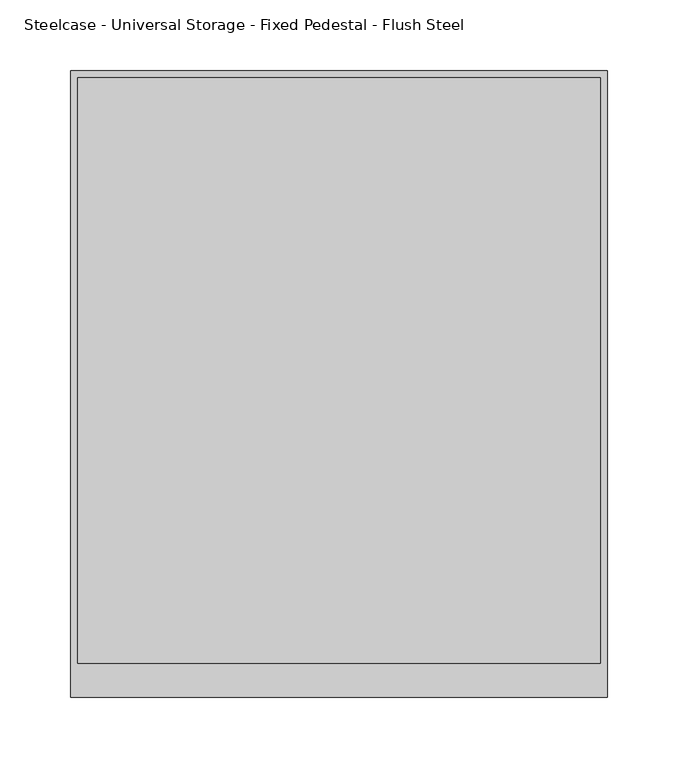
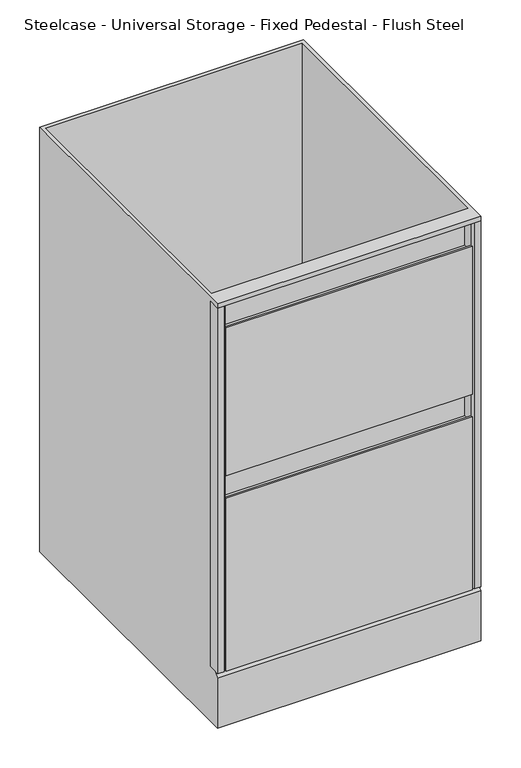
"""IFC4 building model written with IfcOpenShell, lengths in millimetres: furniture geometry, Steelcase - Universal Storage - Fixed Pedestal - Flush Steel : 2 File - 25 1/2H x 17 1/2D."""

from ifc_helpers import new_model, si_unit, frame, origin, place, context, project, spatial, polyline, outline, extrude, faceted_brep, source, transform, mapped, element, save


def steelcase_universal_storage_fixed_pedestal_flush_steel_35dadbd4(model_context):
    return source(origin(), model_context, "Body", "SolidModel", [
        extrude(outline(polyline([(368.3000121, 0.0), (12.7000004, 0.0), (12.7000004, 3.1750001), (368.3000121, 3.1750001), (368.3000121, 0.0)])), frame((0.0, 0.0, 381.0000363), z_axis=(0.0, 0.0, 1.0), x_axis=(1.0, 0.0, 0.0)), (0.0, 0.0, 1.0), 225.4249394),
        extrude(outline(polyline([(368.3000121, 3.1750001), (12.7000004, 3.1750001), (12.7000004, 19.0495469), (368.3000121, 19.0495469), (368.3000121, 3.1750001)])), frame((0.0, 0.0, 82.550003), z_axis=(0.0, 0.0, 1.0), x_axis=(1.0, 0.0, 0.0)), (0.0, 0.0, 1.0), 254.000003),
        extrude(outline(polyline([(368.3000121, 3.1750001), (12.7000004, 3.1750001), (12.7000004, 19.0495469), (368.3000121, 19.0495469), (368.3000121, 3.1750001)])), frame((0.0, 0.0, 381.0000363), z_axis=(0.0, 0.0, 1.0), x_axis=(1.0, 0.0, 0.0)), (0.0, 0.0, 1.0), 101.7269637),
        extrude(outline(polyline([(368.3000121, 3.1750001), (12.7000004, 3.1750001), (12.7000004, 19.0495469), (368.3000121, 19.0495469), (368.3000121, 3.1750001)])), frame((0.0, 0.0, 492.1250121), z_axis=(0.0, 0.0, 1.0), x_axis=(1.0, 0.0, 0.0)), (0.0, 0.0, 1.0), 104.7749637),
        extrude(outline(polyline([(368.3000121, 0.0), (12.7000004, 0.0), (12.7000004, 3.1750001), (368.3000121, 3.1750001), (368.3000121, 0.0)])), frame((0.0, 0.0, 82.550003), z_axis=(0.0, 0.0, 1.0), x_axis=(1.0, 0.0, 0.0)), (0.0, 0.0, 1.0), 263.5249849),
        faceted_brep([(381.0, 0.0, 641.3500242), (381.0, 19.0495469, 641.3500242), (381.0, 19.0495469, 82.550003), (381.0, 6.350003, 82.550003), (381.0, 0.0, 76.2), (381.0, 0.0, 0.0), (381.0, 444.5, 0.0), (381.0, 444.5, 647.7), (381.0, 0.0, 647.7), (0.0, 0.0, 641.3500242), (0.0, 0.0, 647.7), (0.0, 444.5, 647.7), (0.0, 444.5, 0.0), (0.0, 0.0, 0.0), (0.0, 0.0, 76.2), (0.0, 6.350003, 82.550003), (0.0, 19.0495469, 82.550003), (0.0, 19.0495469, 641.3500242), (5.08, 439.42, 647.7), (375.92, 439.42, 647.7), (375.92, 24.1295469, 647.7), (5.08, 24.1295469, 647.7), (375.92, 439.42, 82.550003), (5.08, 439.42, 82.550003), (5.08, 24.1295469, 82.550003), (375.92, 24.1295469, 82.550003)], [[[0, 1, 2, 3, 4, 5, 6, 7, 8]], [[9, 10, 11, 12, 13, 14, 15, 16, 17]], [[1, 0, 9, 17]], [[2, 1, 17, 16]], [[2, 16, 15, 3]], [[13, 5, 4, 14]], [[6, 5, 13, 12]], [[7, 6, 12, 11]], [[8, 7, 11, 10], [18, 19, 20, 21]], [[0, 8, 10, 9]], [[4, 3, 15, 14]], [[22, 23, 24, 25]], [[23, 22, 19, 18]], [[24, 23, 18, 21]], [[25, 24, 21, 20]], [[22, 25, 20, 19]]]),
        extrude(outline(polyline([(12.7000004, 19.0495469), (12.7000004, 3.1750001), (9.5250003, 0.0), (0.0, 0.0), (0.0, 19.0495469), (12.7000004, 19.0495469)])), frame((0.0, 0.0, 82.550003), z_axis=(0.0, 0.0, 1.0), x_axis=(1.0, 0.0, 0.0)), (0.0, 0.0, 1.0), 558.8000212),
        extrude(outline(polyline([(381.0000125, 19.0495469), (381.0000125, 0.0), (371.4750122, 0.0), (368.3000121, 3.1750001), (368.3000121, 19.0495469), (381.0000125, 19.0495469)])), frame((0.0, 0.0, 82.550003), z_axis=(0.0, 0.0, 1.0), x_axis=(1.0, 0.0, 0.0)), (0.0, 0.0, 1.0), 558.8000212),
    ])


if __name__ == "__main__":
    model = new_model("IFC4")
    model_context = context("Model", 3, world=origin())
    ifc_project = project(units=[si_unit("LENGTHUNIT", "METRE", prefix="MILLI")], contexts=[model_context])
    site = spatial("IfcSite", under=ifc_project)
    building = spatial("IfcBuilding", under=site)
    placement = place(None, origin())
    steelcase_universal_storage_fixed_pedestal_flush_steel_shape = steelcase_universal_storage_fixed_pedestal_flush_steel_35dadbd4(model_context)
    element("IfcFurniture", 1, ObjectType="Steelcase - Universal Storage - Fixed Pedestal - Flush Steel : 2 File - 25 1/2H x 17 1/2D", at=placement, inside=building, context=model_context, shape_type="MappedRepresentation", body=[
        mapped(steelcase_universal_storage_fixed_pedestal_flush_steel_shape, transform((0.0, 0.0, 0.0), x_axis=(1.0, 0.0, 0.0), y_axis=(0.0, 1.0, 0.0), z_axis=(0.0, 0.0, 1.0))),
    ])
    save(model, "model.ifc")
